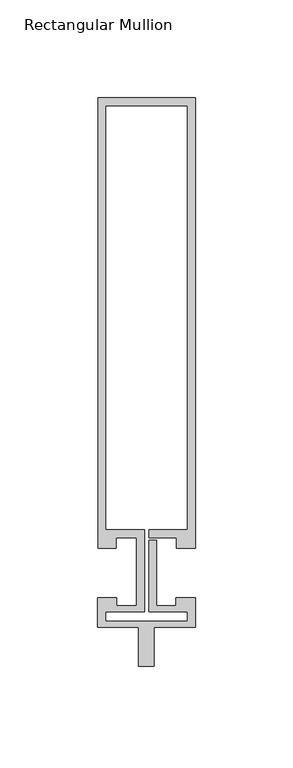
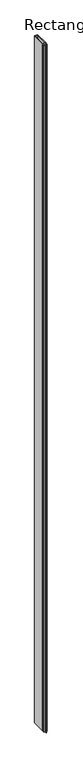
"""IFC4 building model written with IfcOpenShell, lengths in millimetres: member geometry, Rectangular Mullion : Reynaers_CW-50_Transom-Transom_230.5mm_Facecap-06A."""

from ifc_helpers import new_model, si_unit, frame, origin, place, context, project, spatial, polyline, outline, extrude, source, transform, mapped, element, save


def rectangular_mullion_58120c59(model_context):
    return source(origin(), model_context, "Body", "SweptSolid", [
        extrude(outline(polyline([(25.1995941, 12.7331291), (15.499, 12.7331291), (15.499, 18.1331291), (1.2995941, 18.1331291), (1.2995941, 22.1331291), (21.1995941, 22.1331291), (21.1995941, 239.2331291), (-20.8004059, 239.2331291), (-20.8004059, 22.1331291), (-0.9004059, 22.1331291), (-0.9004059, -19.7331291), (-20.994845, -19.7331291), (-20.994845, -24.6522629), (21.1995941, -24.6522629), (21.1995941, -19.7331291), (1.2995941, -19.7331291), (1.2995941, 16.7615089), (5.2995941, 16.7615089), (5.2995941, -16.7331291), (15.2996495, -16.7331291), (15.2996495, -12.7331291), (25.1995941, -12.7331291), (25.1995941, -27.7331291), (4.004855, -27.7331291), (4.004855, -47.7331291), (-3.995145, -47.7331291), (-3.995145, -27.7331291), (-24.994845, -27.7331291), (-24.994845, -12.7331291), (-15.2996495, -12.7331291), (-15.2996495, -16.7331291), (-4.9004059, -16.7331291), (-4.9004059, 18.1331291), (-15.499, 18.1331291), (-15.499, 12.7331291), (-24.8004059, 12.7331291), (-24.8004059, 243.2331291), (25.1995941, 243.2331291), (25.1995941, 12.7331291)])), frame((0.0, 0.0, -12000.0), z_axis=(0.0, 0.0, 1.0), x_axis=(1.0, 0.0, 0.0)), (0.0, 0.0, 1.0), 12000.0),
    ])


if __name__ == "__main__":
    model = new_model("IFC4")
    model_context = context("Model", 3, world=origin())
    ifc_project = project(units=[si_unit("LENGTHUNIT", "METRE", prefix="MILLI")], contexts=[model_context])
    site = spatial("IfcSite", under=ifc_project)
    building = spatial("IfcBuilding", under=site)
    placement = place(None, origin())
    rectangular_mullion_shape = rectangular_mullion_58120c59(model_context)
    element("IfcMember", 1, ObjectType="Rectangular Mullion : Reynaers_CW-50_Transom-Transom_230.5mm_Facecap-06A", at=placement, inside=building, context=model_context, shape_type="MappedRepresentation", body=[
        mapped(rectangular_mullion_shape, transform((0.0, 0.0, 0.0), x_axis=(1.0, 0.0, 0.0), y_axis=(0.0, 1.0, 0.0), z_axis=(0.0, 0.0, 1.0))),
    ])
    save(model, "model.ifc")
